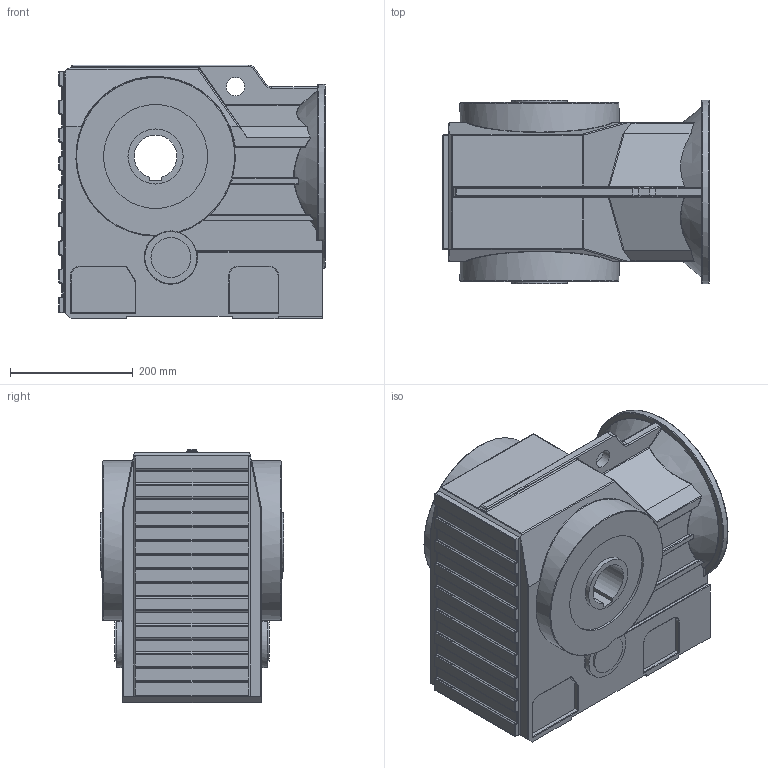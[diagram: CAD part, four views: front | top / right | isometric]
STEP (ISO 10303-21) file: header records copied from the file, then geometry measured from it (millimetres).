
FILE_DESCRIPTION((''),'2;1');
FILE_NAME('F:\PAWEŁ\ZLECENIA\2011 DualSystem\Przekładnie DK\001 Modele\DKAB90_\DK_90_STEP\DK_A_90.stp','2012-06-26T19:16:15',('admin'),(''),'Autodesk Inventor 2009','Autodesk Inventor 2009','');
FILE_SCHEMA(('AUTOMOTIVE_DESIGN { 1 0 10303 214 1 1 1 1 }'));
Length unit declared in the file: millimetre
Products named in the file (1): DK_A_90
Bounding box: 435 x 300 x 414 mm (x, y, z)
Volume: 38233634.9 mm3; surface area: 895043.7 mm2
Topology: 1 solids, 1 shells, 522 faces, 1263 edges, 747 vertices
Faces by surface type: cylinder 217, plane 118, bspline 95, torus 82, sphere 8, cone 2
Full cylindrical faces by diameter (mm): 17.294 x4, 30 x1, 65 x1, 90 x1, 170 x1, 210 x1, 300 x1
Entity records: 19059 total; most frequent: CARTESIAN_POINT 7160, DIRECTION 2509, ORIENTED_EDGE 2472, EDGE_CURVE 1236, AXIS2_PLACEMENT_3D 990, VERTEX_POINT 746, EDGE_LOOP 556, VECTOR 529
